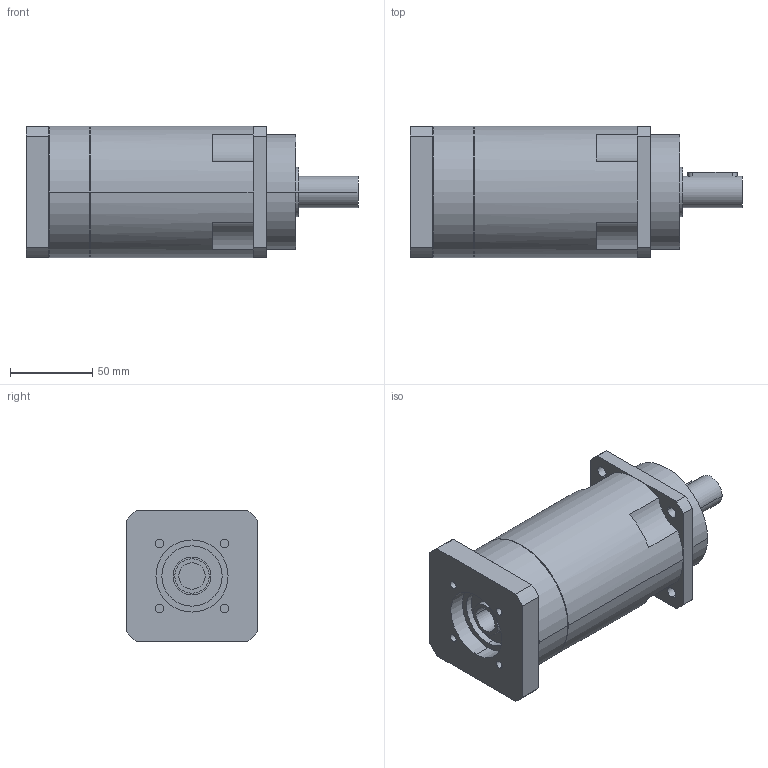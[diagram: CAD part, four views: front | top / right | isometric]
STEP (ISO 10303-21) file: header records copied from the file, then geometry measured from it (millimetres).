
FILE_DESCRIPTION(('CoCreate Modeling STEP Export'),'2;1');
FILE_NAME('GPR100_ig-48-64-80-100-120-144-180-216_19_B5_16_P31.stp','2014-08-26T11:55:56',(''),(''),'CoCreate Modeling STEP processor for AP214 (Solid Model)','CoCreate Modeling 16.00C 25-Feb-2009 (C) Parametric Technology GmbH','');
FILE_SCHEMA(('AUTOMOTIVE_DESIGN { 1 0 10303 214 1 1 1 1 }'));
Length unit declared in the file: millimetre
Products named in the file (2): GPR100_ig-48-64-80-100-120-144-180-216_19_B5_16_P31
Assembly tree (1 placements, depth 2):
  GPR100_ig-48-64-80-100-120-144-180-216_19_B5_16_P31
    GPR100_ig-48-64-80-100-120-144-180-216_19_B5_16_P31
Bounding box: 202.4 x 80 x 80 mm (x, y, z)
Volume: 810247.4 mm3; surface area: 66274.6 mm2
Topology: 1 solids, 1 shells, 93 faces, 246 edges, 168 vertices
Faces by surface type: cylinder 52, plane 35, cone 6
Entity records: 2611 total; most frequent: ORIENTED_EDGE 488, CARTESIAN_POINT 473, DIRECTION 386, EDGE_CURVE 244, VERTEX_POINT 168, AXIS2_PLACEMENT_3D 145, EDGE_LOOP 116, VECTOR 96
